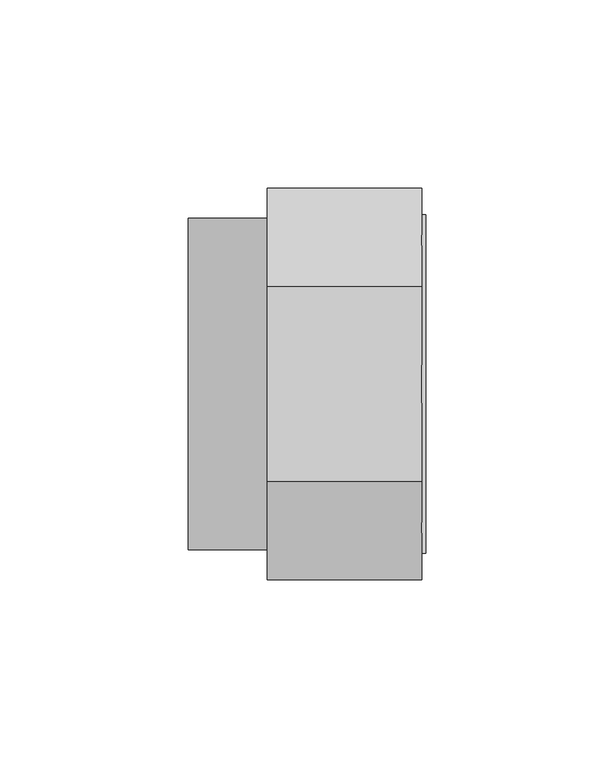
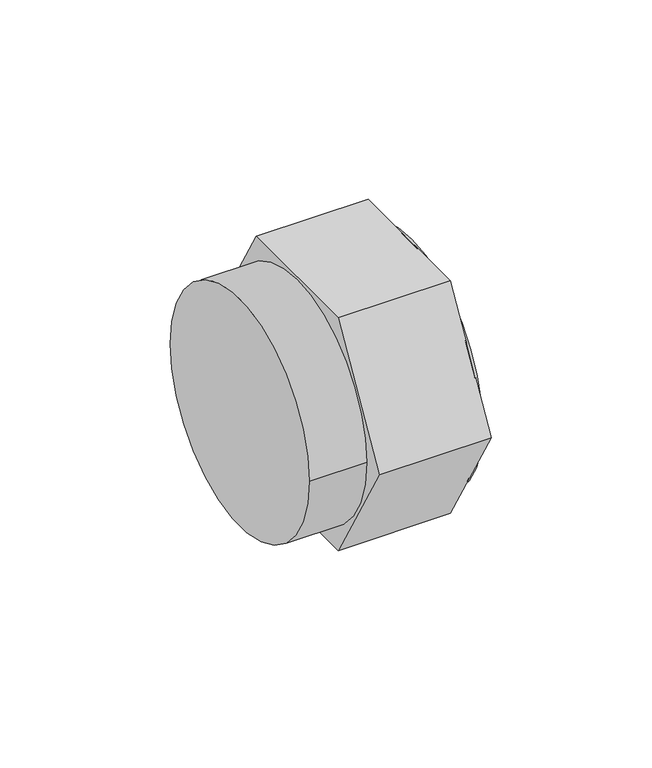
"""IFC4 building model written with IfcOpenShell, lengths in millimetres: pipe fitting geometry, 01011012 : Tapones H."""

from ifc_helpers import new_model, si_unit, point, frame, origin, origin_2d, place, context, project, spatial, polyline, circle_curve, trimmed, segment, composite_curve, outline, extrude, source, transform, mapped, element, save


def pipe_fitting_1682b166(model_context):
    return source(origin(), model_context, "Body", "SweptSolid", [
        extrude(outline(composite_curve([segment(trimmed(circle_curve(origin_2d(), 45.0), [point((-45.0, 0.0))], [point((45.0, 0.0))], False, "CARTESIAN"), True, "CONTINUOUS"), segment(trimmed(circle_curve(origin_2d(), 45.0), [point((45.0, 0.0))], [point((-45.0, 0.0))], False, "CARTESIAN"), True, "CONTINUOUS")], self_intersect=False)), frame((62.0, 0.0, 0.0), z_axis=(1.0, 0.0, 0.0), x_axis=(0.0, 1.0, 0.0)), (0.0, 0.0, 1.0), 1.0),
        extrude(outline(composite_curve([segment(trimmed(circle_curve(origin_2d(), 44.0), [point((-44.0, 0.0))], [point((44.0, 0.0))], False, "CARTESIAN"), True, "CONTINUOUS"), segment(trimmed(circle_curve(origin_2d(), 44.0), [point((44.0, 0.0))], [point((-44.0, 0.0))], False, "CARTESIAN"), True, "CONTINUOUS")], self_intersect=False)), frame((0.0, 0.0, 0.0), z_axis=(1.0, 0.0, 0.0), x_axis=(0.0, 1.0, 0.0)), (0.0, 0.0, 1.0), 21.0),
        extrude(outline(polyline([(-25.9807621, 45.0), (25.9807621, 45.0), (51.9615242, 0.0), (25.9807621, -45.0), (-25.9807621, -45.0), (-51.9615242, 0.0), (-25.9807621, 45.0)])), frame((21.0, 0.0, 0.0), z_axis=(1.0, 0.0, 0.0), x_axis=(0.0, 1.0, 0.0)), (0.0, 0.0, 1.0), 41.0),
    ])


if __name__ == "__main__":
    model = new_model("IFC4")
    model_context = context("Model", 3, world=origin())
    ifc_project = project(units=[si_unit("LENGTHUNIT", "METRE", prefix="MILLI")], contexts=[model_context])
    site = spatial("IfcSite", under=ifc_project)
    building = spatial("IfcBuilding", under=site)
    placement = place(None, origin())
    pipe_fitting_shape = pipe_fitting_1682b166(model_context)
    element("IfcPipeFitting", 1, ObjectType="01011012 : Tapones H", at=placement, inside=building, context=model_context, shape_type="MappedRepresentation", body=[
        mapped(pipe_fitting_shape, transform((0.0, 0.0, 0.0), x_axis=(1.0, 0.0, 0.0), y_axis=(0.0, 1.0, 0.0), z_axis=(0.0, 0.0, 1.0))),
    ])
    save(model, "model.ifc")
